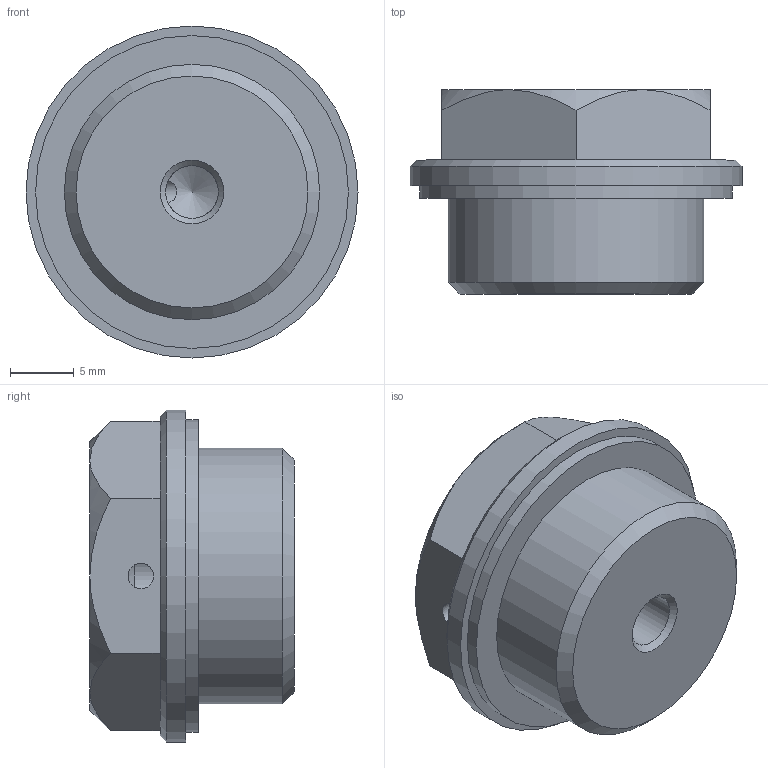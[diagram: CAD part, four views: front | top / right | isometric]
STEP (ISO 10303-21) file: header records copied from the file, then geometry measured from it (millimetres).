
FILE_DESCRIPTION( ( 'STEP AP203' ), '1' );
FILE_NAME( 'C:/Temp/Ganter_Step_05_03_2020/data/3_5/gn742/gn742_2/Threaded plug GN 742-26-M20x1,5-OS-2.stp', '2020-03-12T13:39:42', ( 'License CC BY-ND 4.0' ), ( 'CADENAS' ), ' ', 'PARTsolutions', ' ' );
FILE_SCHEMA( ( 'CONFIG_CONTROL_DESIGN' ) );
Length unit declared in the file: millimetre
Products named in the file (1): _Threaded plug GN 742-26-M20x1,5-OS-2
Bounding box: 26 x 16 x 26 mm (x, y, z)
Volume: 5735.4 mm3; surface area: 2297.9 mm2
Topology: 1 solids, 1 shells, 26 faces, 56 edges, 34 vertices
Faces by surface type: plane 11, cone 10, cylinder 5
Full cylindrical faces by diameter (mm): 2 x1, 4.134 x1, 20 x1, 24.5 x1, 26 x1
Entity records: 776 total; most frequent: CARTESIAN_POINT 229, DIRECTION 102, ORIENTED_EDGE 88, AXIS2_PLACEMENT_3D 45, EDGE_CURVE 44, EDGE_LOOP 39, VERTEX_POINT 32, FACE_OUTER_BOUND 31
